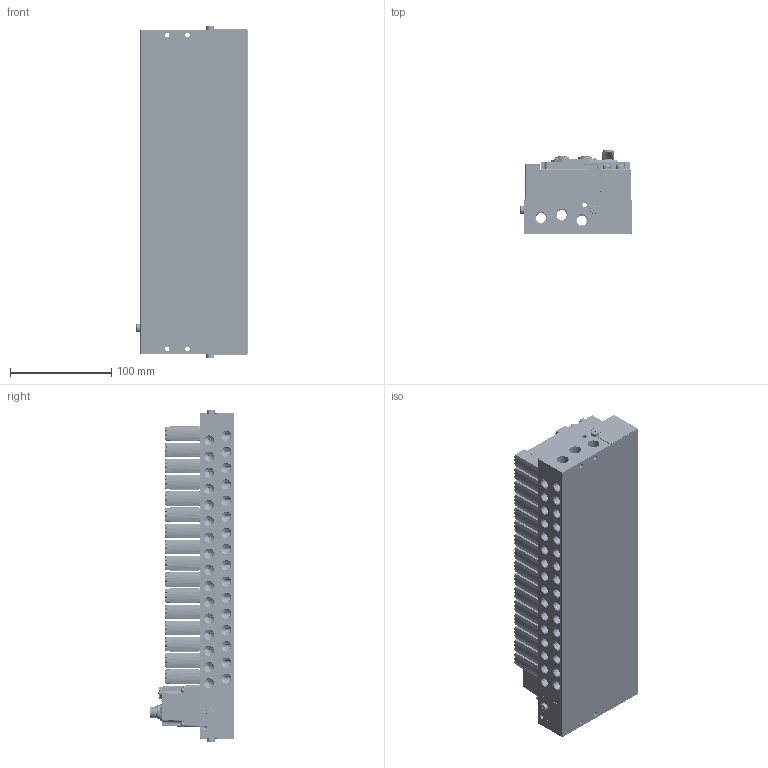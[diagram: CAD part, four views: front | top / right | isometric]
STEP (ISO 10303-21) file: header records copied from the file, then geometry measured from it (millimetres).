
FILE_DESCRIPTION((''),'2;1');
FILE_NAME('C3-L14-W-XBF-16_ASM','2026-06-22T10:50:04',('admin'),(''),'CREO PARAMETRIC BY PTC INC, 2022073','CREO PARAMETRIC BY PTC INC, 2022073','');
FILE_SCHEMA(('CONFIG_CONTROL_DESIGN'));
Products named in the file (49): NONE-6197; NONE-7941; PRT0002-1-SOLID1; 202300320_ASM-1_202300327-1-SOL; NONE-17293; 202300320_ASM-1_202300144-1-SOL; 202300320_ASM-1_202300351-1-SOL; PRT0002-1-SOLID4; 202300320_ASM-1_202300318_ASM-1; 202300320_ASM-1_202300349-1-SOL; 202300320_ASM-1_202300353-1-SOL; 202300320_ASM-1_202300355-1-SOL; 202300320_ASM-1_202300349-2-SOL; 202300320_ASM-1_202300314_ASM-1; PRT0002-1-SOLID2; 202300320_ASM-1_202300351-2-SOL; 202300320_ASM-1_202300353-2-SOL; 202300320_ASM-1_202300355-2-SOL; SURFACE-VGB14_ASM; 0001; M50001; XBF_0001_ASM; C3-L14-W-XBF-16-130489; C3-L14-W-XBF-16-80893_ASM; SURFACE-VGB14_ASM_1_ASM_1_ASM_1; M3X16-2-SOLID10001_1_1_1; M3X16-4-SOLID10001_1_1_1; SH794-1-1-SOLID1_1_1_1_1; SH794-1-1-SOLID1_1_2_1_1; SH794-1-1-SOLID1_1_3_1_1; SH794-1-1-SOLID1_1_ASM_1_ASM_1_ASM; M3X5-1-SOLID10001_1_1_1; M3X16-3-SOLID10001_1_1_1; M12D-2022_11_-70380001_1_1_1; M12D-2022_11_-82260001_1_1_1; M3X16-1-SOLID10001_1_1_1; NONE-196029_1_1_1; SH794-3-1-SOLID1_1_1_1; NONE-215390_1_1_1; M12A5-1-SOLID10001_1_1_1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
Assembly tree (95 placements, depth 9):
  C3-L14-W-XBF-16_ASM
    C3-L14-W-XBF-16-80893_ASM
      SURFACE-VGB14_ASM  x16
        NONE-6197
        NONE-7941
        PRT0002-1-SOLID1
        202300320_ASM-1_202300327-1-SOL
        NONE-17293
        202300320_ASM-1_202300144-1-SOL
        202300320_ASM-1_202300351-1-SOL
        PRT0002-1-SOLID4
        202300320_ASM-1_202300318_ASM-1
        202300320_ASM-1_202300349-1-SOL
        202300320_ASM-1_202300353-1-SOL
        202300320_ASM-1_202300355-1-SOL
        202300320_ASM-1_202300349-2-SOL
        202300320_ASM-1_202300314_ASM-1
        PRT0002-1-SOLID2
        202300320_ASM-1_202300351-2-SOL
        202300320_ASM-1_202300353-2-SOL
        202300320_ASM-1_202300355-2-SOL
      0001  x2
      M50001  x3
      XBF_0001_ASM
      C3-L14-W-XBF-16-130489
    C3EC_ASM
      C3-L14-W-XBF-24_ASM_ASM_1_ASM
        C3-L14-W-XBF-24_ASM_ASM_1_ASM_1_ASM
          C3-L14-W-XBF-24_ASM_1_ASM_1_ASM_ASM
            C3-L14-W-XBF-24-210887_ASM_1_AS_ASM
              SURFACE-VGB14_ASM_1_ASM_1_ASM_1  x24
              XBF_0001_ASM_1_ASM_1_ASM_1_ASM
                M3X16-2-SOLID10001_1_1_1
                M3X16-4-SOLID10001_1_1_1
                SH794-1-1-SOLID1_1_ASM_1_ASM_1_ASM
                  SH794-1-1-SOLID1_1_1_1_1
                  SH794-1-1-SOLID1_1_2_1_1
                  SH794-1-1-SOLID1_1_3_1_1
                M3X5-1-SOLID10001_1_1_1  x2
                M3X16-3-SOLID10001_1_1_1
                M12D-2022_11_-70380001_1_1_1
                M12D-2022_11_-82260001_1_1_1
                M3X16-1-SOLID10001_1_1_1
                NONE-196029_1_1_1
                SH794-3-1-SOLID1_1_1_1
                NONE-215390_1_1_1
                M12A5-1-SOLID10001_1_1_1
            _06--1-SOLID30001_1_1_1  x6
            IP_COVER_1_1_1
Bounding box: 110 x 83.3 x 328 mm (x, y, z)
Volume: 1472916 mm3; surface area: 534397.5 mm2
Topology: 316 solids, 430 shells, 24543 faces, 62920 edges, 36680 vertices
Faces by surface type: cylinder 8523, plane 6114, bspline 2728, torus 2605, cone 2309, sphere 2179, extrusion 85
Entity records: 191023 total; most frequent: CARTESIAN_POINT 68619, DIRECTION 25510, ORIENTED_EDGE 25500, EDGE_CURVE 12758, AXIS2_PLACEMENT_3D 9971, VERTEX_POINT 8159, EDGE_LOOP 5659, VECTOR 5568
